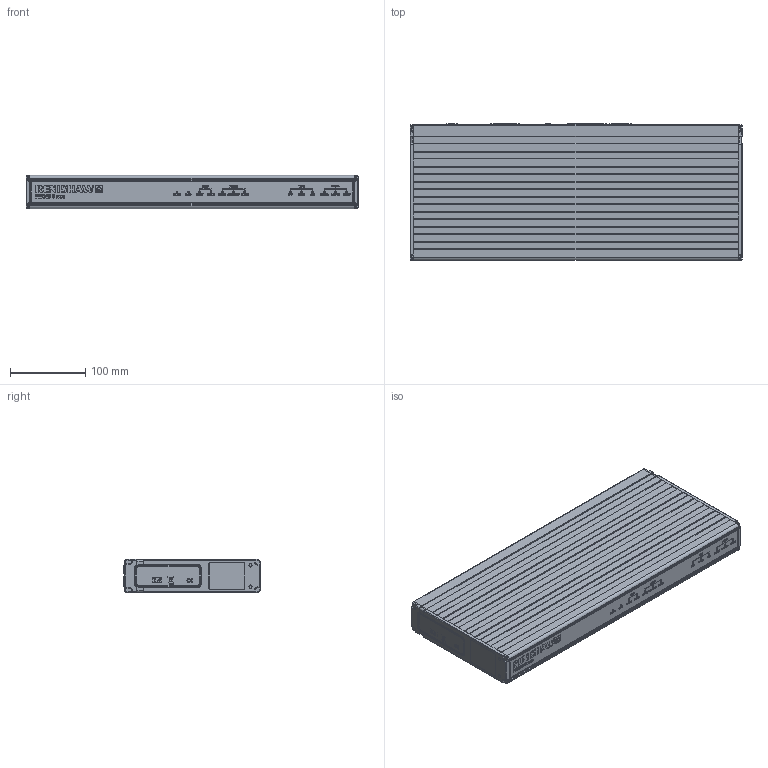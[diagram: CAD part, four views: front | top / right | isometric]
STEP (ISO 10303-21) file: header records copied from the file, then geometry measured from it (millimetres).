
FILE_DESCRIPTION(/* description */ (''),/* implementation_level */ '2;1');
FILE_NAME(/* name */ 'LA-5863-0200-A_PHC10-3 _ PI200-3 CONTROLLER.stp',/* time_stamp */ '2021-08-11T13:10:57+01:00',/* author */ (''),/* organization */ (''),/* preprocessor_version */ 'ST-DEVELOPER v16.7',/* originating_system */ 'SIEMENS PLM Software NX 1946',/* authorisation */ '');
FILE_SCHEMA (('AUTOMOTIVE_DESIGN { 1 0 10303 214 3 1 1 1 }'));
Products named in the file (1): mg1427D0287Ao76r
Bounding box: 440 x 181.1 x 44.09 mm (x, y, z)
Volume: 3388037.4 mm3; surface area: 218933.3 mm2
Topology: 1 solids, 1 shells, 1015 faces, 6877 edges, 6224 vertices
Faces by surface type: plane 687, cylinder 241, bspline 35, torus 28, sphere 24
Full cylindrical faces by diameter (mm): 5.5 x1, 9 x1, 13 x1, 17 x2
Entity records: 88389 total; most frequent: CARTESIAN_POINT 32944, ORIENTED_EDGE 13690, EDGE_CURVE 6845, VERTEX_POINT 6221, DIRECTION 5736, B_SPLINE_CURVE_WITH_KNOTS 3689, LINE 2538, VECTOR 2538
